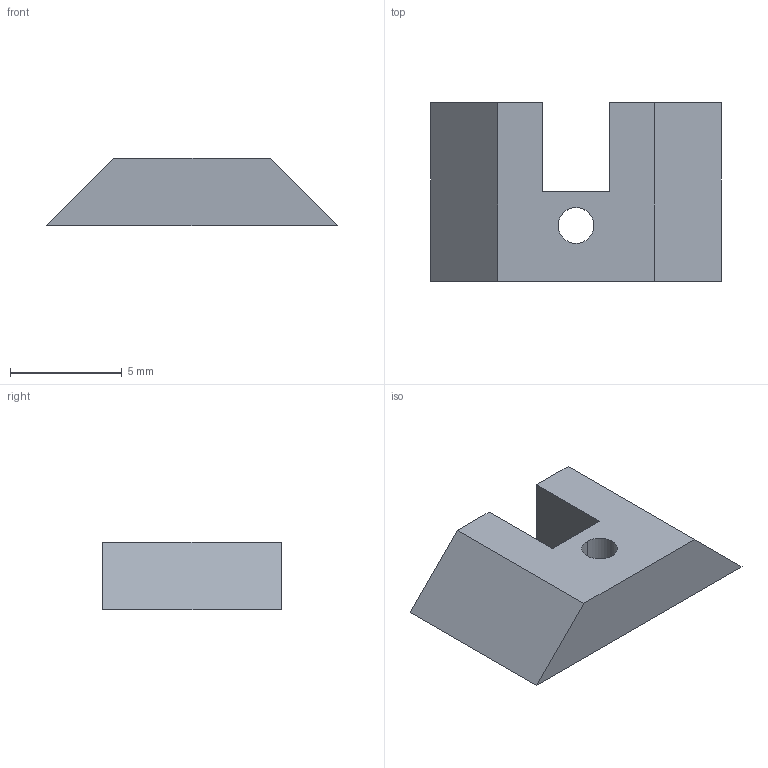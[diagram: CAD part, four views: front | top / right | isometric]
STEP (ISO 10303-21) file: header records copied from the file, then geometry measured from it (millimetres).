
FILE_DESCRIPTION(('STEP AP214'),'1');
FILE_NAME('tmp0.STEP','2026-06-08T18:45:34',(' '),(' '),'Spatial InterOp 3D',' ',' ');
FILE_SCHEMA(('AUTOMOTIVE_DESIGN { 1 0 10303 214 1 1 1 1 }'));
Length unit declared in the file: millimetre
Products named in the file (1): Thickness Data
Bounding box: 13 x 8 x 3 mm (x, y, z)
Volume: 198 mm3; surface area: 298.9 mm2
Topology: 1 solids, 1 shells, 12 faces, 30 edges, 20 vertices
Faces by surface type: plane 10, cylinder 2
Entity records: 387 total; most frequent: CARTESIAN_POINT 63, DIRECTION 60, ORIENTED_EDGE 60, EDGE_CURVE 30, LINE 26, VECTOR 26, VERTEX_POINT 20, AXIS2_PLACEMENT_3D 17
